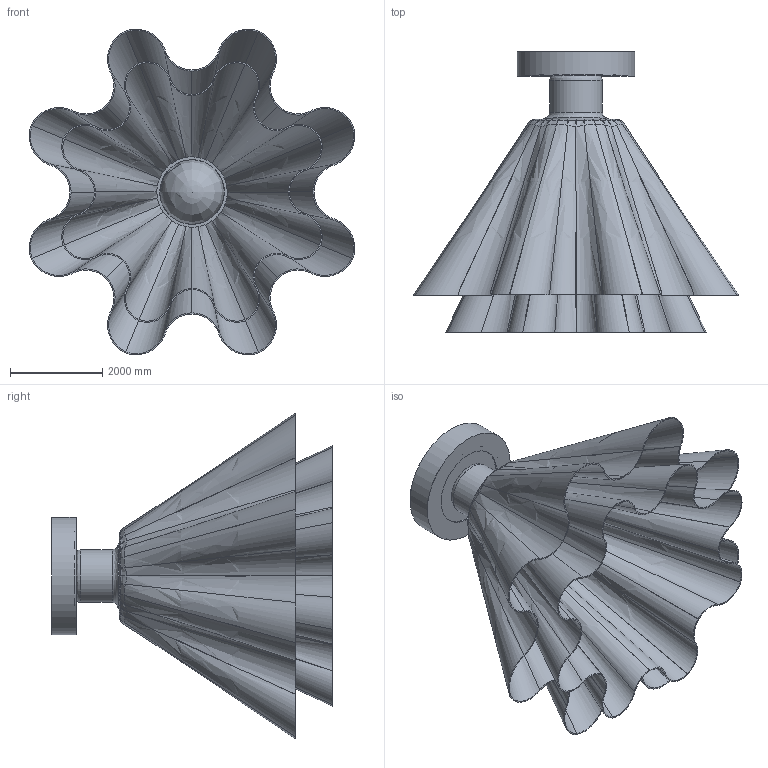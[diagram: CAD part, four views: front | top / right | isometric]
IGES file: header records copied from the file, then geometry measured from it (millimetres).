
Global section: file name: Gailon Ceiling Light-D11.8″,4; native system: 8HAutoCAD 2022 - 简体中文 (Simplified Chinese); preprocessor: Autodesk Translation Framework DWG producer (atf_dwg_producer); organization: unknown; date: 20250324.145705; units: inch
Bounding box: 7049.71 x 6077.56 x 7049.71 mm (x, y, z)
Volume: 5897848638.4 mm3; surface area: 331167120.3 mm2
Topology: 8 solids, 8 shells, 237 faces, 655 edges, 440 vertices
Faces by surface type: bspline 237
